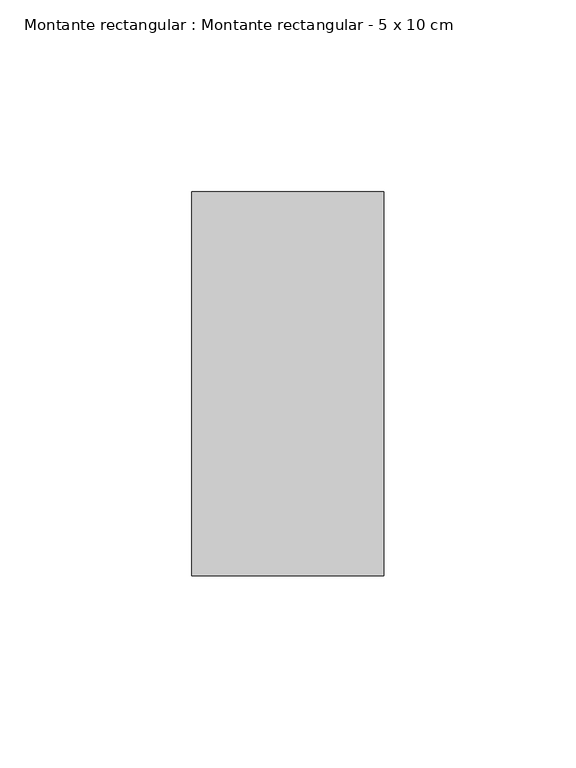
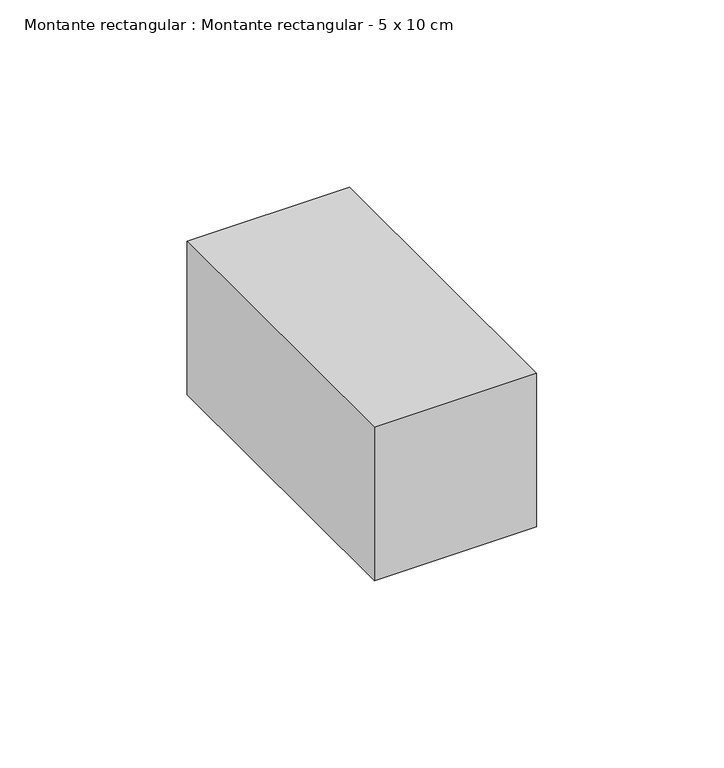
"""IFC4 building model written with IfcOpenShell, lengths in millimetres: member geometry, Montante rectangular : Montante rectangular - 5 x 10 cm."""

from ifc_helpers import new_model, si_unit, frame, origin, place, context, project, spatial, polyline, outline, extrude, source, transform, mapped, element, save


def montante_rectangular_montante_rectangular_5_x_10_cm_d817baf0(model_context):
    return source(origin(), model_context, "Body", "SweptSolid", [
        extrude(outline(polyline([(-50.0, 50.0), (0.0, 50.0), (0.0, -50.0), (-50.0, -50.0), (-50.0, 50.0)])), frame((0.0, 0.0, -50.0047141), z_axis=(0.0, 0.0, 1.0), x_axis=(1.0, 0.0, 0.0)), (0.0, 0.0, 1.0), 50.0047141),
    ])


if __name__ == "__main__":
    model = new_model("IFC4")
    model_context = context("Model", 3, world=origin())
    ifc_project = project(units=[si_unit("LENGTHUNIT", "METRE", prefix="MILLI")], contexts=[model_context])
    site = spatial("IfcSite", under=ifc_project)
    building = spatial("IfcBuilding", under=site)
    placement = place(None, origin())
    montante_rectangular_montante_rectangular_5_x_10_cm_shape = montante_rectangular_montante_rectangular_5_x_10_cm_d817baf0(model_context)
    element("IfcMember", 1, ObjectType="Montante rectangular : Montante rectangular - 5 x 10 cm", at=placement, inside=building, context=model_context, shape_type="MappedRepresentation", body=[
        mapped(montante_rectangular_montante_rectangular_5_x_10_cm_shape, transform((0.0, 0.0, 0.0), x_axis=(1.0, 0.0, 0.0), y_axis=(0.0, 1.0, 0.0), z_axis=(0.0, 0.0, 1.0))),
    ])
    save(model, "model.ifc")
